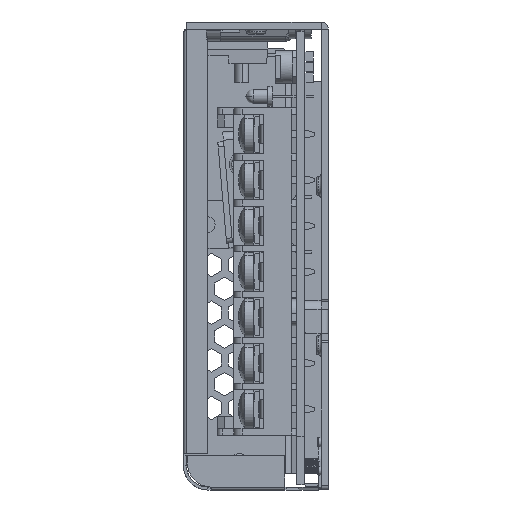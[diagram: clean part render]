
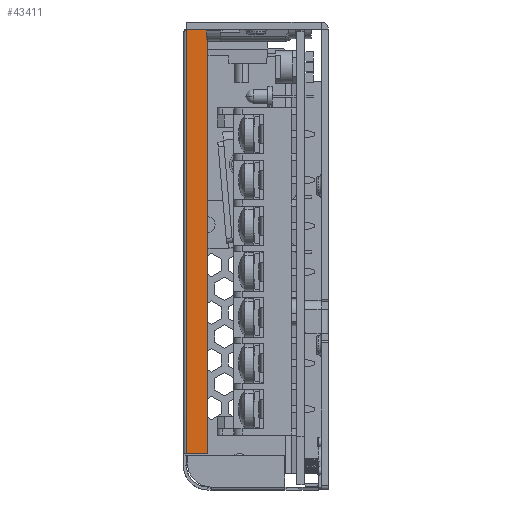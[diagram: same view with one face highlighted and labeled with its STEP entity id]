
A CAD part, left-side view. The second image highlights one B-rep face of the part: STEP entity #43411.
In plain terms, the highlighted planar face has unit normal (-1, 0, 0).
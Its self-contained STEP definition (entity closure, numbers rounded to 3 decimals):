
#6391 = ORIENTED_EDGE ( 'NONE', *, *, #32347, .F. ) ;
#8013 = DIRECTION ( 'NONE',  ( 0., 0., 1. ) ) ;
#15643 = EDGE_CURVE ( 'NONE', #92331, #133405, #47253, .T. ) ;
#18247 = PLANE ( 'NONE',  #87738 ) ;
#26789 = ORIENTED_EDGE ( 'NONE', *, *, #15643, .F. ) ;
#30697 = DIRECTION ( 'NONE',  ( 0., 0., -1. ) ) ;
#32347 = EDGE_CURVE ( 'NONE', #133405, #88637, #101809, .T. ) ;
#36975 = DIRECTION ( 'NONE',  ( 0., 1., 0. ) ) ;
#38173 = CARTESIAN_POINT ( 'NONE',  ( -75.833, 3.398, 175.99 ) ) ;
#43411 = ADVANCED_FACE ( 'NONE', ( #71206 ), #18247, .F. ) ;
#46132 = ORIENTED_EDGE ( 'NONE', *, *, #64546, .F. ) ;
#47253 = LINE ( 'NONE', #38173, #73121 ) ;
#59237 = CARTESIAN_POINT ( 'NONE',  ( -75.833, 3.398, 175.99 ) ) ;
#61312 = CARTESIAN_POINT ( 'NONE',  ( -75.833, 3.398, 87.99 ) ) ;
#63053 = LINE ( 'NONE', #127865, #109268 ) ;
#64198 = CARTESIAN_POINT ( 'NONE',  ( -75.833, 3.398, 87.99 ) ) ;
#64546 = EDGE_CURVE ( 'NONE', #106747, #92331, #63053, .T. ) ;
#66802 = DIRECTION ( 'NONE',  ( 0., -1., 0. ) ) ;
#71206 = FACE_OUTER_BOUND ( 'NONE', #122212, .T. ) ;
#71906 = DIRECTION ( 'NONE',  ( 1., 0., 0. ) ) ;
#73121 = VECTOR ( 'NONE', #66802, 1000. ) ;
#80895 = CARTESIAN_POINT ( 'NONE',  ( -75.833, 3.398, 87.99 ) ) ;
#87448 = VECTOR ( 'NONE', #36975, 1000. ) ;
#87738 = AXIS2_PLACEMENT_3D ( 'NONE', #135308, #71906, #105333 ) ;
#88637 = VERTEX_POINT ( 'NONE', #64198 ) ;
#92331 = VERTEX_POINT ( 'NONE', #128605 ) ;
#101809 = LINE ( 'NONE', #80895, #105640 ) ;
#102676 = CARTESIAN_POINT ( 'NONE',  ( -75.833, 7.798, 87.99 ) ) ;
#105333 = DIRECTION ( 'NONE',  ( 0., -1., 0. ) ) ;
#105640 = VECTOR ( 'NONE', #30697, 1000. ) ;
#106747 = VERTEX_POINT ( 'NONE', #102676 ) ;
#109268 = VECTOR ( 'NONE', #8013, 1000. ) ;
#109823 = EDGE_CURVE ( 'NONE', #88637, #106747, #133791, .T. ) ;
#122212 = EDGE_LOOP ( 'NONE', ( #46132, #133001, #6391, #26789 ) ) ;
#127865 = CARTESIAN_POINT ( 'NONE',  ( -75.833, 7.798, 175.99 ) ) ;
#128605 = CARTESIAN_POINT ( 'NONE',  ( -75.833, 7.798, 175.99 ) ) ;
#133001 = ORIENTED_EDGE ( 'NONE', *, *, #109823, .F. ) ;
#133405 = VERTEX_POINT ( 'NONE', #59237 ) ;
#133791 = LINE ( 'NONE', #61312, #87448 ) ;
#135308 = CARTESIAN_POINT ( 'NONE',  ( -75.833, 8.398, 80.49 ) ) ;
